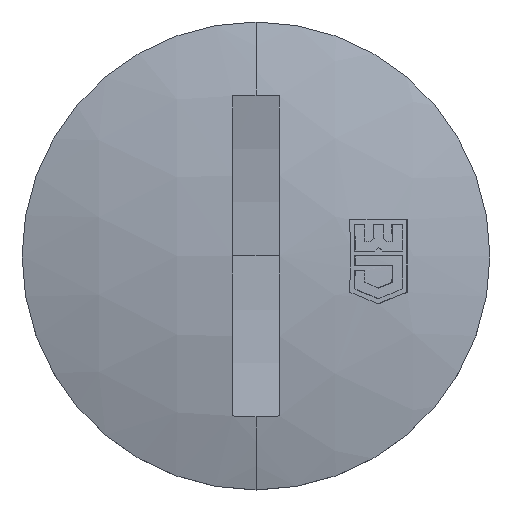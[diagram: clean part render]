
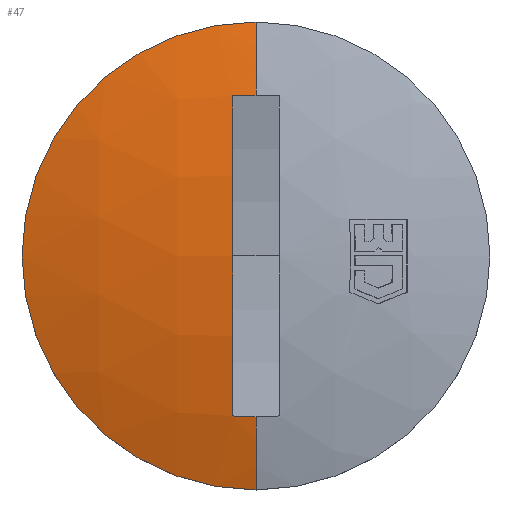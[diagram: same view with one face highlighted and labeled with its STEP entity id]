
A CAD part, top view. The second image highlights one B-rep face of the part: STEP entity #47.
In plain terms, the highlighted spherical face has radius 34 mm.
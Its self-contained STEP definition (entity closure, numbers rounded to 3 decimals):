
#21 = EDGE_LOOP ( 'NONE', ( #39, #40, #78, #41, #42, #82 ) ) ;
#24 = EDGE_CURVE ( 'NONE', #100, #54, #566, .T. ) ;
#25 = EDGE_CURVE ( 'NONE', #140, #26, #768, .T. ) ;
#26 = VERTEX_POINT ( 'NONE', #767 ) ;
#39 = ORIENTED_EDGE ( 'NONE', *, *, #44, .F. ) ;
#40 = ORIENTED_EDGE ( 'NONE', *, *, #25, .F. ) ;
#41 = ORIENTED_EDGE ( 'NONE', *, *, #167, .F. ) ;
#42 = ORIENTED_EDGE ( 'NONE', *, *, #133, .T. ) ;
#44 = EDGE_CURVE ( 'NONE', #26, #100, #748, .T. ) ;
#47 = ADVANCED_FACE ( 'NONE', ( #661 ), #660, .T. ) ;
#54 = VERTEX_POINT ( 'NONE', #640 ) ;
#78 = ORIENTED_EDGE ( 'NONE', *, *, #79, .T. ) ;
#79 = EDGE_CURVE ( 'NONE', #140, #151, #903, .T. ) ;
#82 = ORIENTED_EDGE ( 'NONE', *, *, #24, .F. ) ;
#100 = VERTEX_POINT ( 'NONE', #906 ) ;
#133 = EDGE_CURVE ( 'NONE', #163, #54, #913, .T. ) ;
#140 = VERTEX_POINT ( 'NONE', #858 ) ;
#151 = VERTEX_POINT ( 'NONE', #891 ) ;
#163 = VERTEX_POINT ( 'NONE', #867 ) ;
#167 = EDGE_CURVE ( 'NONE', #163, #151, #916, .T. ) ;
#566 = CIRCLE ( 'NONE', #772, 10. ) ;
#640 = CARTESIAN_POINT ( 'NONE',  ( 0., 10., 7.496 ) ) ;
#656 = DIRECTION ( 'NONE',  ( 0., 1., 0. ) ) ;
#657 = DIRECTION ( 'NONE',  ( 1., 0., 0. ) ) ;
#658 = CARTESIAN_POINT ( 'NONE',  ( 0., 0., -25. ) ) ;
#659 = AXIS2_PLACEMENT_3D ( 'NONE', #658, #657, #656 ) ;
#660 = SPHERICAL_SURFACE ( 'NONE', #659, 34. ) ;
#661 = FACE_OUTER_BOUND ( 'NONE', #21, .T. ) ;
#744 = DIRECTION ( 'NONE',  ( 0., 1., 0. ) ) ;
#745 = DIRECTION ( 'NONE',  ( 1., 0., 0. ) ) ;
#746 = CARTESIAN_POINT ( 'NONE',  ( 0., 0., -25. ) ) ;
#747 = AXIS2_PLACEMENT_3D ( 'NONE', #746, #745, #744 ) ;
#748 = CIRCLE ( 'NONE', #747, 34. ) ;
#762 = CARTESIAN_POINT ( 'NONE',  ( 0., -6.873, 8.298 ) ) ;
#763 = CARTESIAN_POINT ( 'NONE',  ( -0.333, -6.873, 8.298 ) ) ;
#764 = CARTESIAN_POINT ( 'NONE',  ( -0.667, -6.862, 8.295 ) ) ;
#765 = CARTESIAN_POINT ( 'NONE',  ( -1., -6.839, 8.29 ) ) ;
#767 = CARTESIAN_POINT ( 'NONE',  ( 0., -6.873, 8.298 ) ) ;
#768 = B_SPLINE_CURVE_WITH_KNOTS ( 'NONE', 3,
 ( #765, #764, #763, #762 ),
 .UNSPECIFIED., .F., .F.,
 ( 4, 4 ),
 ( 0., 0.001 ),
 .UNSPECIFIED. ) ;
#769 = DIRECTION ( 'NONE',  ( 0., 1., 0. ) ) ;
#770 = DIRECTION ( 'NONE',  ( 0., 0., -1. ) ) ;
#771 = CARTESIAN_POINT ( 'NONE',  ( 0., 0., 7.496 ) ) ;
#772 = AXIS2_PLACEMENT_3D ( 'NONE', #771, #770, #769 ) ;
#858 = CARTESIAN_POINT ( 'NONE',  ( -1., -6.839, 8.29 ) ) ;
#867 = CARTESIAN_POINT ( 'NONE',  ( 0., 6.873, 8.298 ) ) ;
#891 = CARTESIAN_POINT ( 'NONE',  ( -1., 6.839, 8.29 ) ) ;
#903 = CIRCLE ( 'NONE', #968, 33.985 ) ;
#906 = CARTESIAN_POINT ( 'NONE',  ( 0., -10., 7.496 ) ) ;
#909 = DIRECTION ( 'NONE',  ( 0., 0., 1. ) ) ;
#910 = DIRECTION ( 'NONE',  ( -1., 0., 0. ) ) ;
#911 = CARTESIAN_POINT ( 'NONE',  ( 0., 0., -25. ) ) ;
#912 = AXIS2_PLACEMENT_3D ( 'NONE', #911, #910, #909 ) ;
#913 = CIRCLE ( 'NONE', #912, 34. ) ;
#915 = CARTESIAN_POINT ( 'NONE',  ( -1., 0., -25. ) ) ;
#916 = B_SPLINE_CURVE_WITH_KNOTS ( 'NONE', 3,
 ( #967, #966, #965, #964 ),
 .UNSPECIFIED., .F., .F.,
 ( 4, 4 ),
 ( 0.001, 0.002 ),
 .UNSPECIFIED. ) ;
#921 = DIRECTION ( 'NONE',  ( -1., 0., 0. ) ) ;
#964 = CARTESIAN_POINT ( 'NONE',  ( -1., 6.839, 8.29 ) ) ;
#965 = CARTESIAN_POINT ( 'NONE',  ( -0.667, 6.862, 8.295 ) ) ;
#966 = CARTESIAN_POINT ( 'NONE',  ( -0.333, 6.873, 8.298 ) ) ;
#967 = CARTESIAN_POINT ( 'NONE',  ( 0., 6.873, 8.298 ) ) ;
#968 = AXIS2_PLACEMENT_3D ( 'NONE', #915, #921, #974 ) ;
#974 = DIRECTION ( 'NONE',  ( 0., 0., -1. ) ) ;
